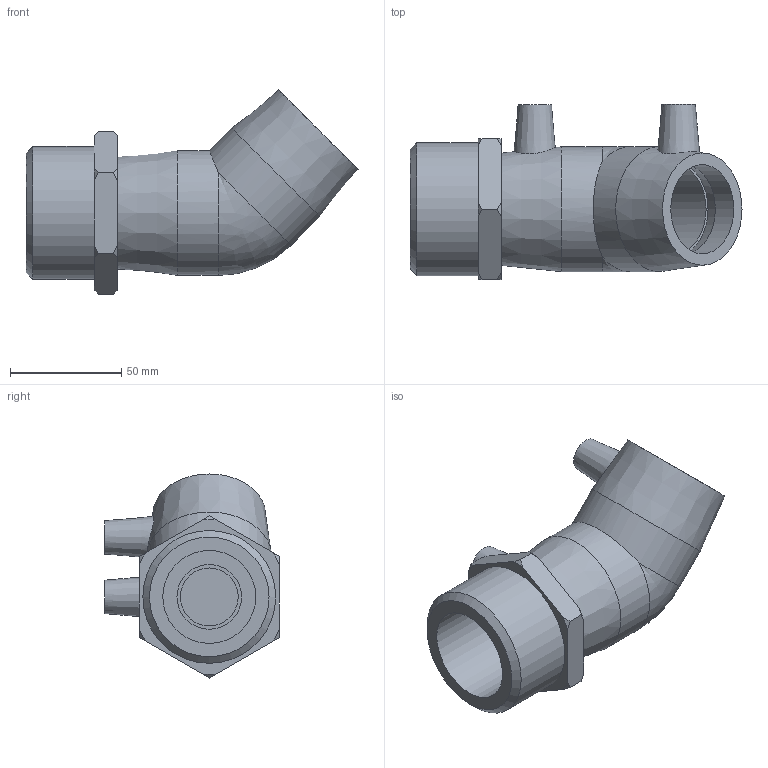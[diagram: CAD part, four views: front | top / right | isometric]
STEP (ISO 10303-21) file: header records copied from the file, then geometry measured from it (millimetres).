
FILE_DESCRIPTION(/* description */ ('PLASSON 45° ELBOW TRANSITION MALE 40-2"'),/* implementation_level */ '2;1');
FILE_NAME(/* name */ 'C:\Dropbox\KIMPROJECTS-Inventor\99-16-3568-Processing\ElectroFusion Fittings\02.02.20\492604\492604040020.ipt.stp',/* time_stamp */ '2020-02-02T12:20:01+02:00',/* author */ ('KIM'),/* organization */ (''),/* preprocessor_version */ 'ST-DEVELOPER v15.6',/* originating_system */ 'Autodesk Inventor 2015',/* authorisation */ '');
FILE_SCHEMA (('AUTOMOTIVE_DESIGN { 1 0 10303 214 3 1 1 }'));
Length unit declared in the file: millimetre
Products named in the file (1): 492604040020
Bounding box: 149 x 78.52 x 91.57 mm (x, y, z)
Volume: 233208.2 mm3; surface area: 54017.4 mm2
Topology: 1 solids, 2 shells, 59 faces, 133 edges, 88 vertices
Faces by surface type: plane 24, cone 19, cylinder 15, bspline 1
Full cylindrical faces by diameter (mm): 4 x2, 10 x2, 26 x2, 29 x1, 40 x4, 41.73 x1, 56 x2, 59.614 x1
Entity records: 1494 total; most frequent: CARTESIAN_POINT 363, DIRECTION 236, ORIENTED_EDGE 188, AXIS2_PLACEMENT_3D 109, EDGE_LOOP 97, EDGE_CURVE 94, VERTEX_POINT 75, FACE_OUTER_BOUND 59
